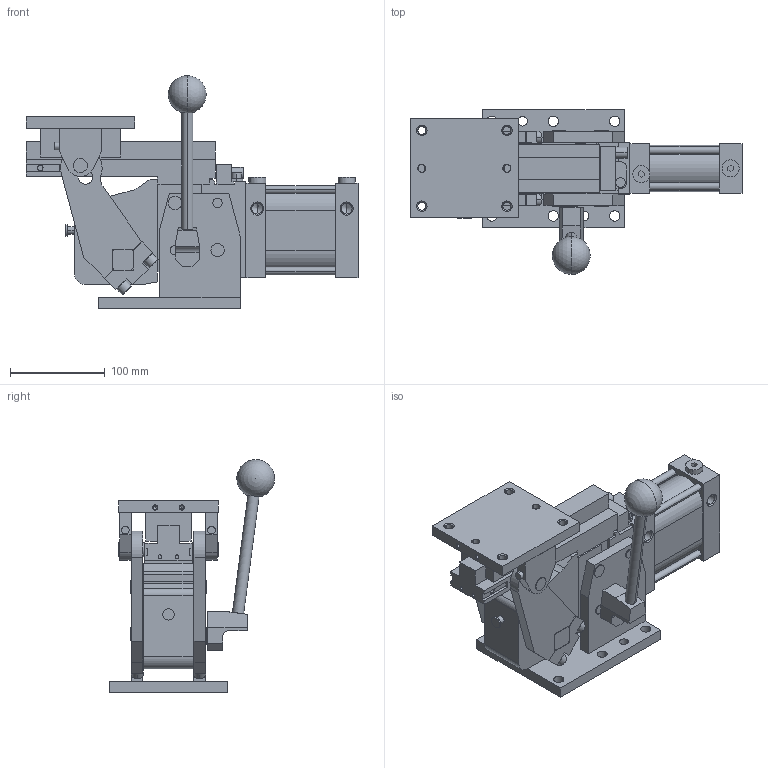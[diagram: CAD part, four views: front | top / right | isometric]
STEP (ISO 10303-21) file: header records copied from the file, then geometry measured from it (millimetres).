
FILE_DESCRIPTION (( 'STEP AP214' ), '1' );
FILE_NAME ('slcpm63_90_xx_la_x_x.STEP', '2019-09-19T12:57:18', ( '' ), ( '' ), 'SwSTEP 2.0', 'SolidWorks 2019', '' );
FILE_SCHEMA (( 'AUTOMOTIVE_DESIGN' ));
Length unit declared in the file: millimetre
Products named in the file (7): leva_slcpm63; tappo cil G1_4 din908_rondella rame; slcpm63_90_xx_la_x_x; blocchetto_VEP_0; piastra_superiore_slcp63; leva_slcp63; slcpm63_90_xx_x_x
Assembly tree (7 placements, depth 2):
  slcpm63_90_xx_la_x_x
    slcpm63_90_xx_x_x
    piastra_superiore_slcp63
    leva_slcp63
    blocchetto_VEP_0
    tappo cil G1_4 din908_rondella rame  x2
    leva_slcpm63
Bounding box: 351 x 174.8 x 246.1 mm (x, y, z)
Volume: 2721314 mm3; surface area: 353931.6 mm2
Topology: 14 solids, 28 shells, 612 faces, 1484 edges, 919 vertices
Faces by surface type: plane 294, cylinder 220, cone 94, sphere 2, torus 2
Entity records: 18052 total; most frequent: DIRECTION 3099, CARTESIAN_POINT 2921, ORIENTED_EDGE 2786, EDGE_CURVE 1393, AXIS2_PLACEMENT_3D 1102, VERTEX_POINT 896, LINE 895, VECTOR 895
